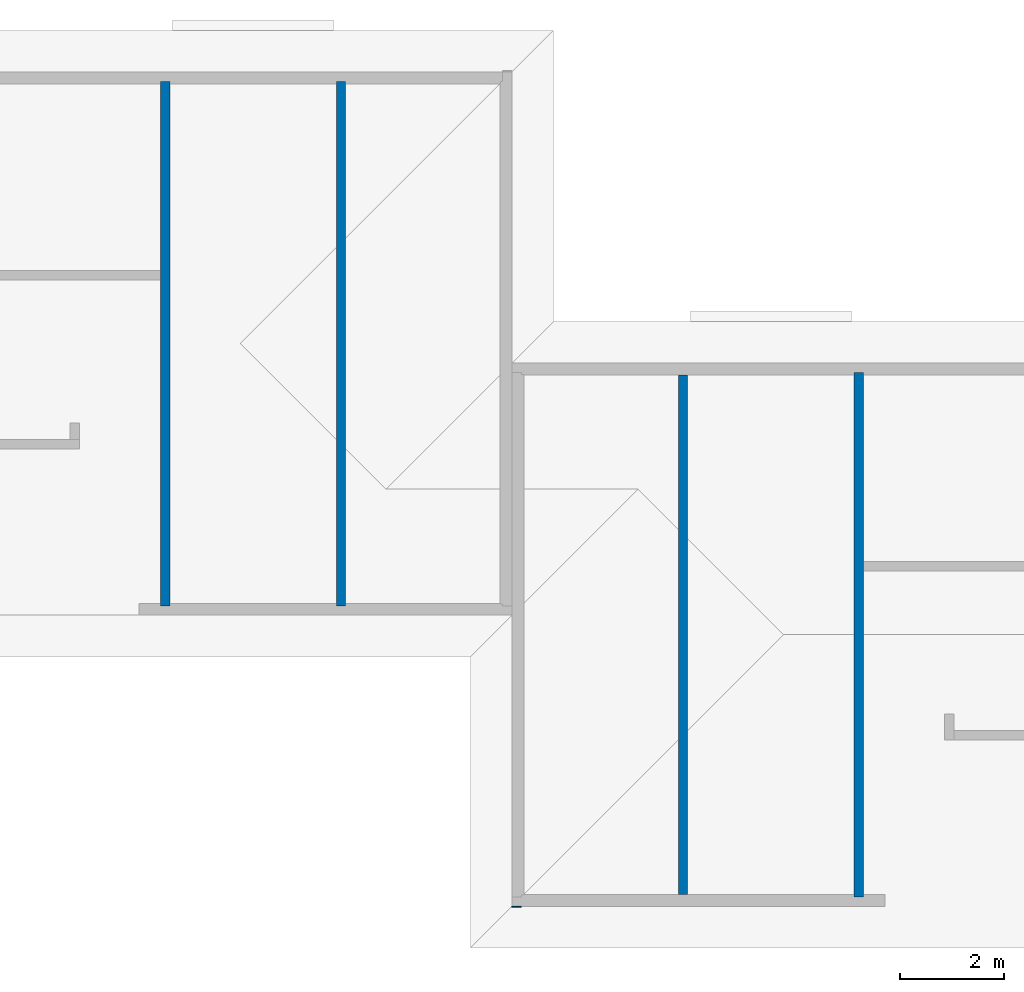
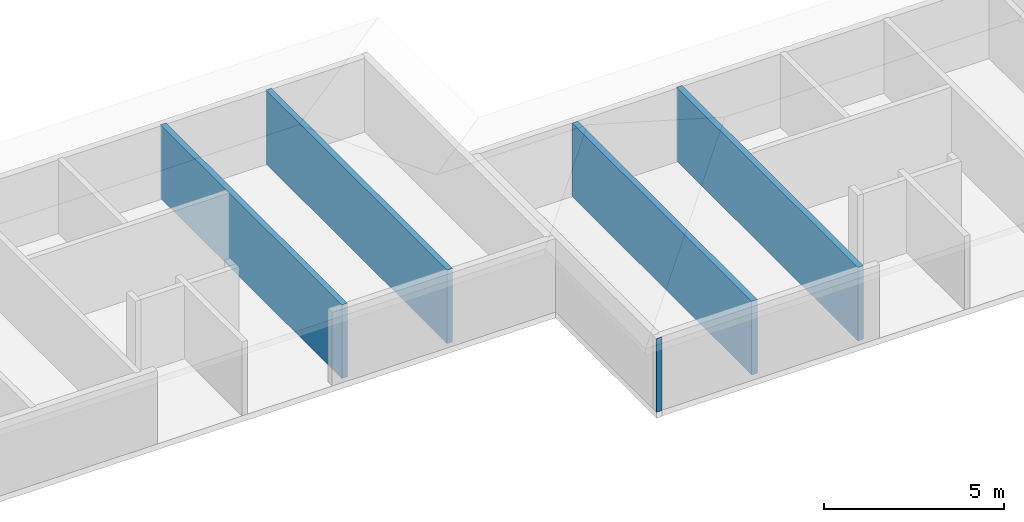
# One storey, part 4 of 10: 5 walls.
"""IFC2X3 building model written with IfcOpenShell, lengths in metres."""

from ifc_helpers import new_model, si_unit, frame, frame_2d, origin, origin_with_axes, place, context, project, spatial, rectangle, extrude, element, save


model = new_model("IFC2X3")

# Units and contexts
model_context = context("Model", 3, precision=1e-06, world=origin())
ifc_project = project(units=[si_unit("LENGTHUNIT", "METRE"), si_unit("PLANEANGLEUNIT", "RADIAN")], contexts=[model_context])

# Site, building, storey
site = spatial("IfcSite", under=ifc_project, CompositionType="ELEMENT")
building = spatial("IfcBuilding", under=site, CompositionType="ELEMENT")
storey = spatial("IfcBuildingStorey", under=building, Name="r+3", CompositionType="ELEMENT", Elevation=8.1)

# Walls
placement = place(None, origin())
wall_1_placement = place(placement, frame((46.459999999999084, -5.399922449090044, 8.1), z_axis=(0.0, 0.0, 1.0), x_axis=(0.0, 1.0, 0.0)))
element("IfcWall", 1, at=wall_1_placement, inside=storey, context=model_context, shape_type="SweptSolid", body=[
    extrude(rectangle(XDim=10.090000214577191, YDim=0.18, at=frame_2d((5.045000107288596, 0.09), x_axis=(1.0, 0.0)), kind="CURVE"), origin_with_axes(), (0.0, 0.0, 1.0), 2.5),
])
wall_2_placement = place(placement, frame((39.69999999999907, -5.579922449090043, 8.1), z_axis=(0.0, 0.0, 1.0), x_axis=(1.0, 0.0, 0.0)))
element("IfcWall", 2, at=wall_2_placement, inside=storey, context=model_context, shape_type="SweptSolid", body=[
    extrude(rectangle(XDim=0.18, YDim=0.020077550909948, at=frame_2d((0.09, 0.010038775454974), x_axis=(1.0, 0.0)), kind="CURVE"), frame((0.0, -0.020077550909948, 0.0), z_axis=(0.0, 0.0, 1.0), x_axis=(1.0, 0.0, 0.0)), (0.0, 0.0, 1.0), 2.5),
])
wall_3_placement = place(placement, frame((43.07999999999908, -5.349922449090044, 8.1), z_axis=(0.0, 0.0, 1.0), x_axis=(0.0, 1.0, 0.0)))
element("IfcWall", 3, at=wall_3_placement, inside=storey, context=model_context, shape_type="SweptSolid", body=[
    extrude(rectangle(XDim=9.99000021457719, YDim=0.18, at=frame_2d((4.995000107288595, 0.09), x_axis=(1.0, 0.0)), kind="CURVE"), origin_with_axes(), (0.0, 0.0, 1.0), 2.5),
])
for number, where, z_axis, x_axis in (
    (4, (33.11999999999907, 0.200077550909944, 8.1), (0.0, 0.0, 1.0), (0.0, 1.0, 0.0)),
    (5, (36.49999999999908, 0.200077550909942, 8.1), (0.0, 0.0, 1.0), (0.0, 1.0, 0.0)),
):
    element("IfcWall", number, at=place(placement, frame(where, z_axis=z_axis, x_axis=x_axis)), inside=storey, context=model_context, shape_type="SweptSolid", body=[
        extrude(rectangle(XDim=10.090000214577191, YDim=0.18, at=frame_2d((5.045000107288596, 0.09), x_axis=(1.0, 0.0)), kind="CURVE"), origin_with_axes(), (0.0, 0.0, 1.0), 2.5),
    ])

save(model, "model.ifc")
